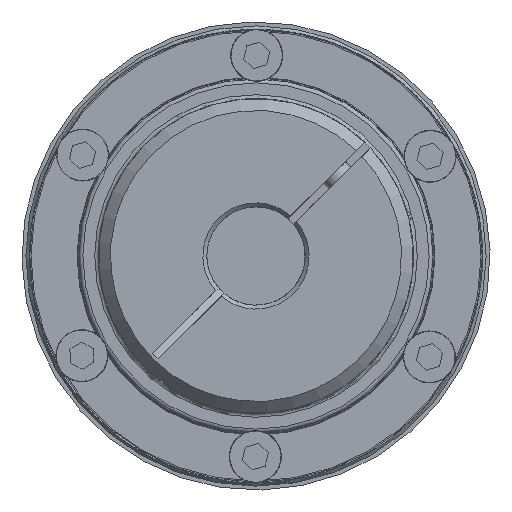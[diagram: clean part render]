
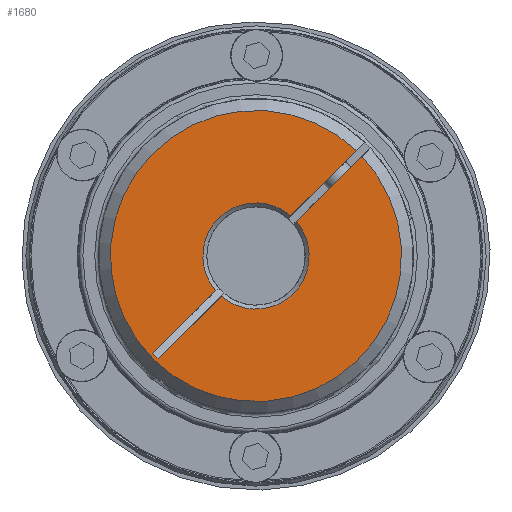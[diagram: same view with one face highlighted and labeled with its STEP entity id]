
A CAD part, left-side view. The second image highlights one B-rep face of the part: STEP entity #1680.
In plain terms, the highlighted planar face has unit normal (-1, 0, 0) as drawn and (0, 0, -1) by its records, which use the part's own axes.
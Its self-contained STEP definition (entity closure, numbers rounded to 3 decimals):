
#1680 = ADVANCED_FACE( '', ( #3302 ), #3303, .T. );
#3302 = FACE_OUTER_BOUND( '', #4823, .T. );
#3303 = PLANE( '', #4824 );
#4823 = EDGE_LOOP( '', ( #7760, #7761, #7762, #7763, #7764, #7765, #7766, #7767 ) );
#4824 = AXIS2_PLACEMENT_3D( '', #7768, #7769, #7770 );
#7760 = ORIENTED_EDGE( '', *, *, #8589, .T. );
#7761 = ORIENTED_EDGE( '', *, *, #7946, .T. );
#7762 = ORIENTED_EDGE( '', *, *, #8466, .F. );
#7763 = ORIENTED_EDGE( '', *, *, #8204, .T. );
#7764 = ORIENTED_EDGE( '', *, *, #8635, .F. );
#7765 = ORIENTED_EDGE( '', *, *, #8897, .T. );
#7766 = ORIENTED_EDGE( '', *, *, #8869, .T. );
#7767 = ORIENTED_EDGE( '', *, *, #8501, .T. );
#7768 = CARTESIAN_POINT( '', ( 0., 0., 0. ) );
#7769 = DIRECTION( '', ( 0., 0., -1. ) );
#7770 = DIRECTION( '', ( -1., 0., 0. ) );
#7946 = EDGE_CURVE( '', #9100, #9104, #9106, .T. );
#8204 = EDGE_CURVE( '', #9543, #9540, #9544, .F. );
#8466 = EDGE_CURVE( '', #9543, #9104, #9944, .T. );
#8501 = EDGE_CURVE( '', #9998, #9999, #10000, .F. );
#8589 = EDGE_CURVE( '', #9999, #9100, #10122, .T. );
#8635 = EDGE_CURVE( '', #10179, #9540, #10180, .T. );
#8869 = EDGE_CURVE( '', #10473, #9998, #10475, .T. );
#8897 = EDGE_CURVE( '', #10179, #10473, #10508, .T. );
#9100 = VERTEX_POINT( '', #10777 );
#9104 = VERTEX_POINT( '', #10784 );
#9106 = CIRCLE( '', #10789, 37. );
#9540 = VERTEX_POINT( '', #11782 );
#9543 = VERTEX_POINT( '', #11788 );
#9544 = CIRCLE( '', #11789, 13.5 );
#9944 = LINE( '', #12316, #12317 );
#9998 = VERTEX_POINT( '', #12396 );
#9999 = VERTEX_POINT( '', #12397 );
#10000 = CIRCLE( '', #12398, 13.5 );
#10122 = LINE( '', #12715, #12716 );
#10179 = VERTEX_POINT( '', #12823 );
#10180 = LINE( '', #12824, #12825 );
#10473 = VERTEX_POINT( '', #13227 );
#10475 = LINE( '', #13229, #13230 );
#10508 = LINE( '', #13277, #13278 );
#10777 = CARTESIAN_POINT( '', ( -36.986, 1., 0. ) );
#10784 = CARTESIAN_POINT( '', ( -36.986, -1., 0. ) );
#10789 = AXIS2_PLACEMENT_3D( '', #13476, #13477, #13478 );
#11782 = CARTESIAN_POINT( '', ( 13.463, -1., 0. ) );
#11788 = CARTESIAN_POINT( '', ( -13.463, -1., 0. ) );
#11789 = AXIS2_PLACEMENT_3D( '', #13883, #13884, #13885 );
#12316 = CARTESIAN_POINT( '', ( 0., -1., 0. ) );
#12317 = VECTOR( '', #14297, 1000. );
#12396 = CARTESIAN_POINT( '', ( 13.463, 1., 0. ) );
#12397 = CARTESIAN_POINT( '', ( -13.463, 1., 0. ) );
#12398 = AXIS2_PLACEMENT_3D( '', #14343, #14344, #14345 );
#12715 = CARTESIAN_POINT( '', ( 0., 1., 0. ) );
#12716 = VECTOR( '', #14468, 1000. );
#12823 = CARTESIAN_POINT( '', ( 36.1, -1., 0. ) );
#12824 = CARTESIAN_POINT( '', ( 0., -1., 0. ) );
#12825 = VECTOR( '', #14513, 1000. );
#13227 = CARTESIAN_POINT( '', ( 36.1, 1., 0. ) );
#13229 = CARTESIAN_POINT( '', ( 0., 1., 0. ) );
#13230 = VECTOR( '', #14783, 1000. );
#13277 = CARTESIAN_POINT( '', ( 36.1, -1., 0. ) );
#13278 = VECTOR( '', #14807, 1000. );
#13476 = CARTESIAN_POINT( '', ( 0., 0., 0. ) );
#13477 = DIRECTION( '', ( 0., 0., -1. ) );
#13478 = DIRECTION( '', ( -1., 0., 0. ) );
#13883 = CARTESIAN_POINT( '', ( 0., 0., 0. ) );
#13884 = DIRECTION( '', ( 0., 0., -1. ) );
#13885 = DIRECTION( '', ( -1., 0., 0. ) );
#14297 = DIRECTION( '', ( -1., 0., 0. ) );
#14343 = CARTESIAN_POINT( '', ( 0., 0., 0. ) );
#14344 = DIRECTION( '', ( 0., 0., -1. ) );
#14345 = DIRECTION( '', ( -1., 0., 0. ) );
#14468 = DIRECTION( '', ( -1., 0., 0. ) );
#14513 = DIRECTION( '', ( -1., 0., 0. ) );
#14783 = DIRECTION( '', ( -1., 0., 0. ) );
#14807 = DIRECTION( '', ( 0., 1., 0. ) );
